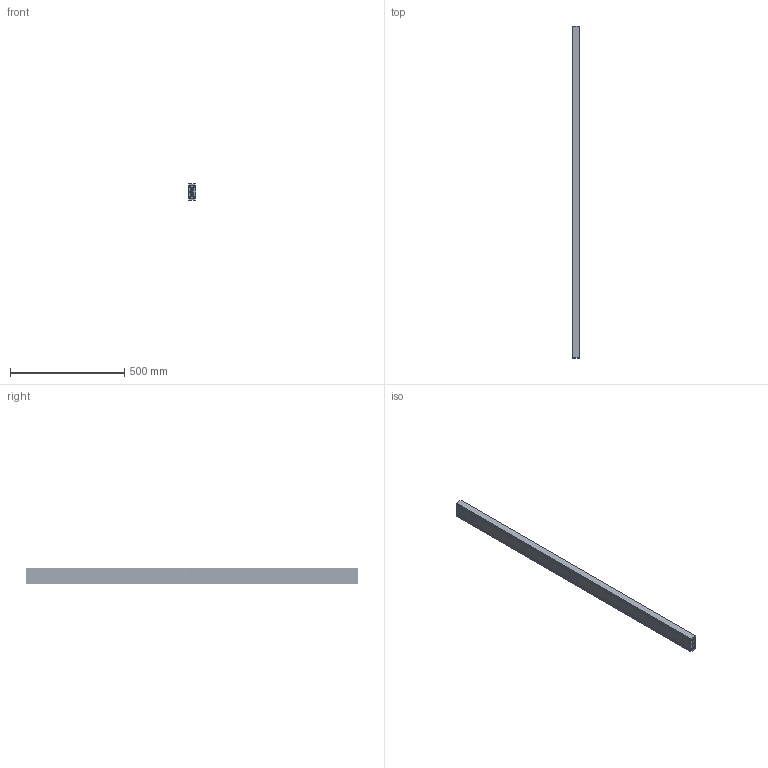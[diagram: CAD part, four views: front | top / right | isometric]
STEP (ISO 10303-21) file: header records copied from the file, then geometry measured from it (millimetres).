
FILE_DESCRIPTION(/* description */ (''),/* implementation_level */ '2;1');
FILE_NAME(/* name */ 'D:\Zeichnungen Schienen Komplett\MX-DTP70\MX-DTP70.145\MX-DTP70.145_eingefahren.step',/* time_stamp */ '2022-08-10T19:42:03+02:00',/* author */ ('zmile'),/* organization */ (''),/* preprocessor_version */ 'ST-DEVELOPER v16.13',/* originating_system */ 'AutoCAD Mechanical',/* authorisation */ '');
FILE_SCHEMA (('AUTOMOTIVE_DESIGN { 1 0 10303 214 3 1 1 }'));
Products named in the file (1): Product
Bounding box: 32 x 1450 x 70 mm (x, y, z)
Volume: 2569479 mm3; surface area: 902447.9 mm2
Topology: 51 solids, 51 shells, 482 faces, 1208 edges, 832 vertices
Faces by surface type: sphere 132, plane 130, cylinder 128, bspline 86, torus 6
Full cylindrical faces by diameter (mm): 9 x88, 13 x2
Entity records: 198650 total; most frequent: CARTESIAN_POINT 188676, DIRECTION 1806, ORIENTED_EDGE 1780, EDGE_CURVE 890, EDGE_LOOP 854, AXIS2_PLACEMENT_3D 797, VERTEX_POINT 742, FACE_OUTER_BOUND 482
